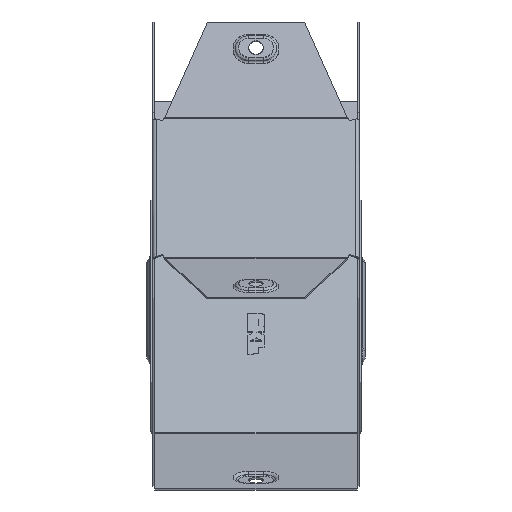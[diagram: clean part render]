
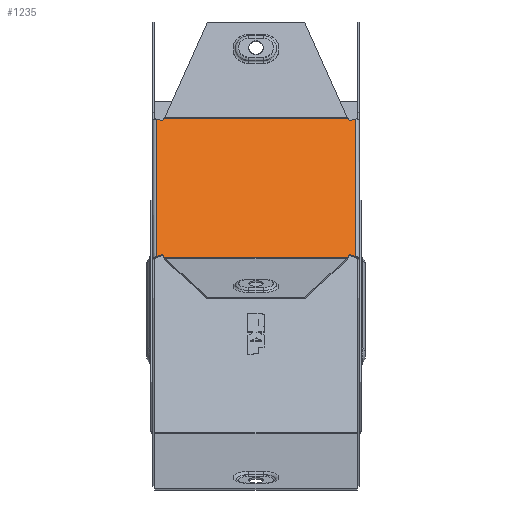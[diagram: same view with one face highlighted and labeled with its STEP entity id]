
A CAD part, front view. The second image highlights one B-rep face of the part: STEP entity #1235.
In plain terms, the highlighted planar face has unit normal (0, -0.707, 0.707).
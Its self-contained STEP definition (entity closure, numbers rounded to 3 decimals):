
#58 = CARTESIAN_POINT ( 'NONE',  ( 48.2, 69.245, -2.873 ) ) ;
#86 = VERTEX_POINT ( 'NONE', #103 ) ;
#95 = VERTEX_POINT ( 'NONE', #7229 ) ;
#103 = CARTESIAN_POINT ( 'NONE',  ( 45.217, 3.747, -68.371 ) ) ;
#241 = VERTEX_POINT ( 'NONE', #2636 ) ;
#248 = CARTESIAN_POINT ( 'NONE',  ( 50.299, 2.258, -69.859 ) ) ;
#335 = ORIENTED_EDGE ( 'NONE', *, *, #4848, .T. ) ;
#416 = ORIENTED_EDGE ( 'NONE', *, *, #11303, .F. ) ;
#510 = DIRECTION ( 'NONE',  ( -0.924, 0.271, 0.271 ) ) ;
#564 = CARTESIAN_POINT ( 'NONE',  ( -50.299, 2.258, -69.859 ) ) ;
#582 = VERTEX_POINT ( 'NONE', #9537 ) ;
#644 = CARTESIAN_POINT ( 'NONE',  ( -45.217, 3.747, -68.371 ) ) ;
#743 = EDGE_CURVE ( 'NONE', #582, #9917, #3534, .T. ) ;
#748 = CARTESIAN_POINT ( 'NONE',  ( 48.2, 70., -2.118 ) ) ;
#1079 = DIRECTION ( 'NONE',  ( -1., 0., 0. ) ) ;
#1205 = AXIS2_PLACEMENT_3D ( 'NONE', #1572, #3545, #8918 ) ;
#1235 = ADVANCED_FACE ( 'NONE', ( #9206 ), #5138, .F. ) ;
#1302 = CARTESIAN_POINT ( 'NONE',  ( -48.2, 69.245, -2.873 ) ) ;
#1472 = CARTESIAN_POINT ( 'NONE',  ( -50.299, 69.859, -2.258 ) ) ;
#1474 = CARTESIAN_POINT ( 'NONE',  ( 48.2, 2.258, -69.859 ) ) ;
#1569 = DIRECTION ( 'NONE',  ( 0.924, 0.271, 0.271 ) ) ;
#1572 = CARTESIAN_POINT ( 'NONE',  ( 48.2, 70., -2.118 ) ) ;
#1810 = EDGE_CURVE ( 'NONE', #7460, #3981, #5077, .T. ) ;
#2385 = VERTEX_POINT ( 'NONE', #2425 ) ;
#2425 = CARTESIAN_POINT ( 'NONE',  ( -48.2, 2.873, -69.245 ) ) ;
#2556 = VECTOR ( 'NONE', #6896, 1000. ) ;
#2629 = VERTEX_POINT ( 'NONE', #8084 ) ;
#2636 = CARTESIAN_POINT ( 'NONE',  ( -44.345, 69.859, -2.258 ) ) ;
#2735 = VERTEX_POINT ( 'NONE', #8204 ) ;
#2758 = LINE ( 'NONE', #564, #4872 ) ;
#2769 = ORIENTED_EDGE ( 'NONE', *, *, #9189, .T. ) ;
#2837 = CARTESIAN_POINT ( 'NONE',  ( -45.217, 68.371, -3.747 ) ) ;
#3117 = ORIENTED_EDGE ( 'NONE', *, *, #10501, .T. ) ;
#3430 = ORIENTED_EDGE ( 'NONE', *, *, #1810, .F. ) ;
#3471 = VERTEX_POINT ( 'NONE', #2837 ) ;
#3519 = EDGE_CURVE ( 'NONE', #86, #3981, #6175, .T. ) ;
#3534 = LINE ( 'NONE', #10592, #8024 ) ;
#3538 = LINE ( 'NONE', #10044, #3963 ) ;
#3545 = DIRECTION ( 'NONE',  ( 0., 0.707, -0.707 ) ) ;
#3694 = ORIENTED_EDGE ( 'NONE', *, *, #7590, .T. ) ;
#3722 = LINE ( 'NONE', #1472, #7506 ) ;
#3778 = DIRECTION ( 'NONE',  ( 0., -0.707, -0.707 ) ) ;
#3963 = VECTOR ( 'NONE', #7373, 1000. ) ;
#3981 = VERTEX_POINT ( 'NONE', #8065 ) ;
#4634 = LINE ( 'NONE', #10892, #8260 ) ;
#4848 = EDGE_CURVE ( 'NONE', #2385, #2735, #2758, .T. ) ;
#4872 = VECTOR ( 'NONE', #1569, 1000. ) ;
#4904 = VECTOR ( 'NONE', #10139, 1000. ) ;
#5057 = VECTOR ( 'NONE', #7652, 1000. ) ;
#5077 = LINE ( 'NONE', #748, #7152 ) ;
#5138 = PLANE ( 'NONE',  #1205 ) ;
#5248 = DIRECTION ( 'NONE',  ( 0., -0.707, -0.707 ) ) ;
#5278 = EDGE_CURVE ( 'NONE', #3471, #6508, #3722, .T. ) ;
#5413 = VECTOR ( 'NONE', #1079, 1000. ) ;
#5618 = EDGE_CURVE ( 'NONE', #9917, #241, #6393, .T. ) ;
#5950 = LINE ( 'NONE', #9651, #2556 ) ;
#6004 = DIRECTION ( 'NONE',  ( -1., 0., 0. ) ) ;
#6008 = ORIENTED_EDGE ( 'NONE', *, *, #9490, .T. ) ;
#6013 = CARTESIAN_POINT ( 'NONE',  ( 23.5, -33.327, -105.445 ) ) ;
#6096 = VECTOR ( 'NONE', #7660, 1000. ) ;
#6175 = LINE ( 'NONE', #248, #4904 ) ;
#6393 = LINE ( 'NONE', #6893, #5413 ) ;
#6508 = VERTEX_POINT ( 'NONE', #1302 ) ;
#6591 = ORIENTED_EDGE ( 'NONE', *, *, #8111, .T. ) ;
#6623 = LINE ( 'NONE', #644, #6096 ) ;
#6893 = CARTESIAN_POINT ( 'NONE',  ( 48.2, 69.859, -2.258 ) ) ;
#6896 = DIRECTION ( 'NONE',  ( -0.383, -0.653, -0.653 ) ) ;
#7152 = VECTOR ( 'NONE', #5248, 1000. ) ;
#7229 = CARTESIAN_POINT ( 'NONE',  ( -44.345, 2.258, -69.859 ) ) ;
#7373 = DIRECTION ( 'NONE',  ( -0.924, -0.271, -0.271 ) ) ;
#7460 = VERTEX_POINT ( 'NONE', #58 ) ;
#7506 = VECTOR ( 'NONE', #510, 1000. ) ;
#7590 = EDGE_CURVE ( 'NONE', #7460, #582, #3538, .T. ) ;
#7652 = DIRECTION ( 'NONE',  ( 0.383, 0.653, 0.653 ) ) ;
#7660 = DIRECTION ( 'NONE',  ( 0.383, -0.653, -0.653 ) ) ;
#7844 = EDGE_LOOP ( 'NONE', ( #2769, #9298, #3430, #3694, #9706, #9021, #6591, #7894, #6008, #335, #3117, #416 ) ) ;
#7894 = ORIENTED_EDGE ( 'NONE', *, *, #5278, .T. ) ;
#8024 = VECTOR ( 'NONE', #8930, 1000. ) ;
#8065 = CARTESIAN_POINT ( 'NONE',  ( 48.2, 2.873, -69.245 ) ) ;
#8084 = CARTESIAN_POINT ( 'NONE',  ( 44.345, 2.258, -69.859 ) ) ;
#8111 = EDGE_CURVE ( 'NONE', #241, #3471, #5950, .T. ) ;
#8148 = LINE ( 'NONE', #1474, #9990 ) ;
#8204 = CARTESIAN_POINT ( 'NONE',  ( -45.217, 3.747, -68.371 ) ) ;
#8260 = VECTOR ( 'NONE', #3778, 1000. ) ;
#8918 = DIRECTION ( 'NONE',  ( 0., 0.707, 0.707 ) ) ;
#8930 = DIRECTION ( 'NONE',  ( -0.383, 0.653, 0.653 ) ) ;
#9021 = ORIENTED_EDGE ( 'NONE', *, *, #5618, .T. ) ;
#9189 = EDGE_CURVE ( 'NONE', #2629, #86, #9691, .T. ) ;
#9206 = FACE_OUTER_BOUND ( 'NONE', #7844, .T. ) ;
#9298 = ORIENTED_EDGE ( 'NONE', *, *, #3519, .T. ) ;
#9490 = EDGE_CURVE ( 'NONE', #6508, #2385, #4634, .T. ) ;
#9537 = CARTESIAN_POINT ( 'NONE',  ( 45.217, 68.371, -3.747 ) ) ;
#9651 = CARTESIAN_POINT ( 'NONE',  ( -45.217, 68.371, -3.747 ) ) ;
#9691 = LINE ( 'NONE', #6013, #5057 ) ;
#9706 = ORIENTED_EDGE ( 'NONE', *, *, #743, .T. ) ;
#9917 = VERTEX_POINT ( 'NONE', #9987 ) ;
#9987 = CARTESIAN_POINT ( 'NONE',  ( 44.345, 69.859, -2.258 ) ) ;
#9990 = VECTOR ( 'NONE', #6004, 1000. ) ;
#10044 = CARTESIAN_POINT ( 'NONE',  ( 50.299, 69.859, -2.258 ) ) ;
#10139 = DIRECTION ( 'NONE',  ( 0.924, -0.271, -0.271 ) ) ;
#10501 = EDGE_CURVE ( 'NONE', #2735, #95, #6623, .T. ) ;
#10592 = CARTESIAN_POINT ( 'NONE',  ( 23.5, 105.445, 33.327 ) ) ;
#10892 = CARTESIAN_POINT ( 'NONE',  ( -48.2, 70., -2.118 ) ) ;
#11303 = EDGE_CURVE ( 'NONE', #2629, #95, #8148, .T. ) ;
